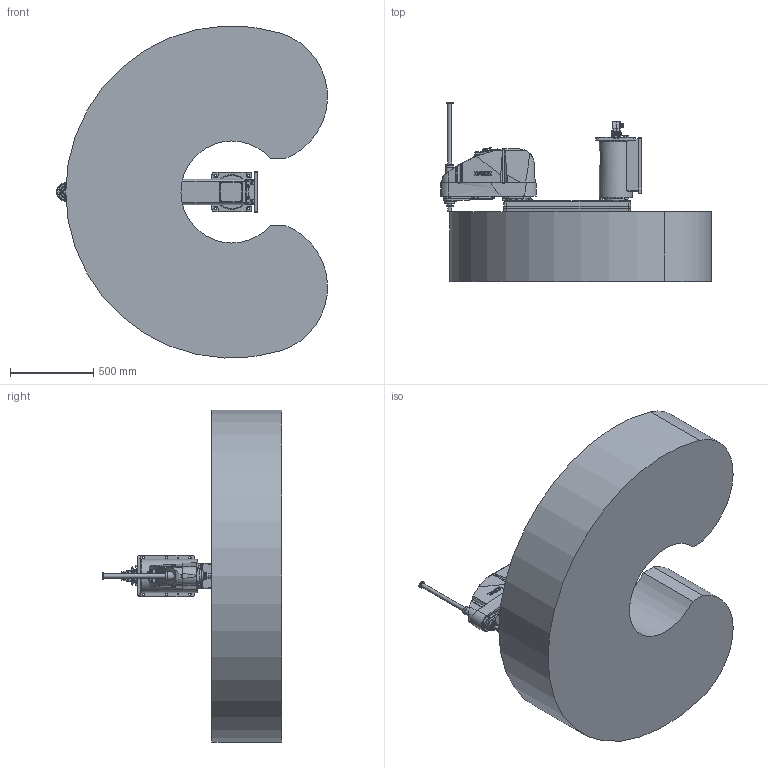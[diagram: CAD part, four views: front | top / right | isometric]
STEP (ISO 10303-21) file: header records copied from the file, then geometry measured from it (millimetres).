
FILE_DESCRIPTION( ( 'STEP AP214' ), '1' );
FILE_NAME( 'C:/Users/9607552/Desktop/GX20-BA04SW_langle.stp', '2023-08-01T09:47:35', ( '' ), ( '' ), ' ', 'PARTsolutions', ' ' );
FILE_SCHEMA( ( 'AUTOMOTIVE_DESIGN { 1 0 10303 214 1 1 1 1 }' ) );
Length unit declared in the file: millimetre
Products named in the file (7): GX20-BA04SWA-W; _Base sw; _Angle-B; _J1 Arm GX10-600 r/w; _J2 Arm GX10-s; _J3 Arm GX10-s (4); _GX10_20B-30_4
Assembly tree (6 placements, depth 2):
  GX20-BA04SWA-W
    _Base sw
    _Angle-B
    _J1 Arm GX10-600 r/w
    _J2 Arm GX10-s
    _J3 Arm GX10-s (4)
    _GX10_20B-30_4
Bounding box: 1630.39 x 1080 x 1998.16 mm (x, y, z)
Volume: 953874942.1 mm3; surface area: 9039766.5 mm2
Topology: 6 solids, 6 shells, 2525 faces, 6201 edges, 4057 vertices
Faces by surface type: plane 1326, cylinder 802, cone 302, torus 62, bspline 32, sphere 1
Full cylindrical faces by diameter (mm): 1 x24, 1.18 x55, 2.5 x2, 3 x32, 3.242 x10, 3.3 x4, 4.2 x4, 4.8 x4, 5.1 x4, 5.25 x2, 5.34 x8, 5.4 x5, 5.5 x16, 6 x2, 6.2 x4, 6.647 x2, 6.8 x2, 7 x23, 7.59 x8, 8 x9, 8.5 x2, 9 x4, 10 x32, 11 x14, 12 x6, 12.25 x1, 13 x8, 14 x20, 14.25 x1, 16 x6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
Entity records: 95621 total; most frequent: CARTESIAN_POINT 17907, DIRECTION 11889, ORIENTED_EDGE 11000, EDGE_CURVE 5500, AXIS2_PLACEMENT_3D 4543, VERTEX_POINT 3968, EDGE_LOOP 3560, FACE_OUTER_BOUND 2920
